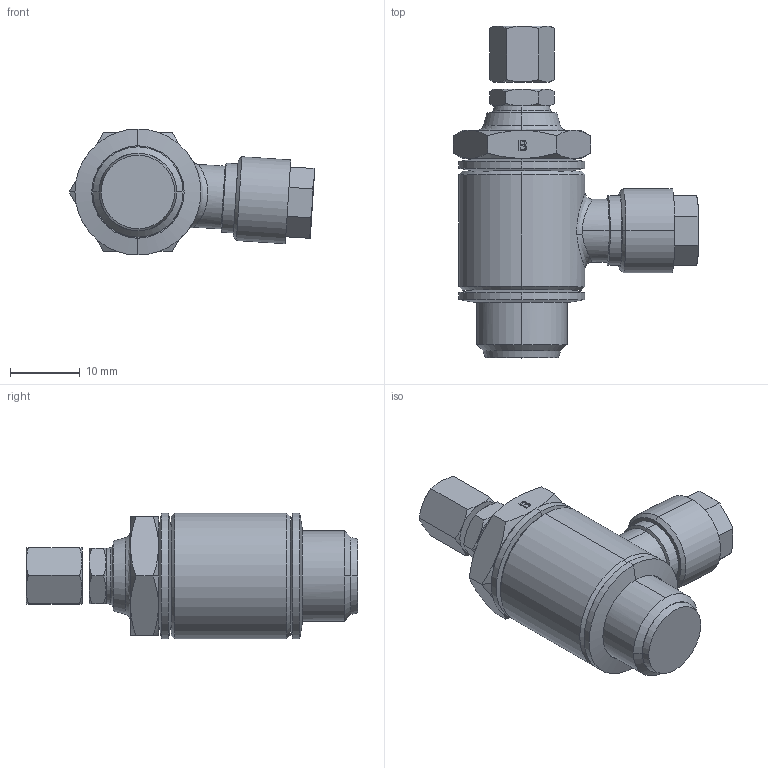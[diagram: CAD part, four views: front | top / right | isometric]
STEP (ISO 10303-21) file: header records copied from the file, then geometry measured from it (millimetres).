
FILE_DESCRIPTION (( 'STEP AP203' ), '1' );
FILE_NAME ('249742.STEP', '2016-09-22T09:20:00', ( '' ), ( '' ), 'SwSTEP 2.0', 'SolidWorks 2016', '' );
FILE_SCHEMA (( 'CONFIG_CONTROL_DESIGN' ));
Length unit declared in the file: millimetre
Products named in the file (1): 249742
Bounding box: 35.19 x 47.57 x 18.05 mm (x, y, z)
Volume: 9515.3 mm3; surface area: 4153.3 mm2
Topology: 2 solids, 2 shells, 212 faces, 518 edges, 321 vertices
Faces by surface type: plane 78, cone 73, cylinder 45, bspline 16
Entity records: 7966 total; most frequent: CARTESIAN_POINT 2966, ORIENTED_EDGE 1036, DIRECTION 1017, EDGE_CURVE 518, AXIS2_PLACEMENT_3D 422, VERTEX_POINT 321, EDGE_LOOP 247, CIRCLE 225
